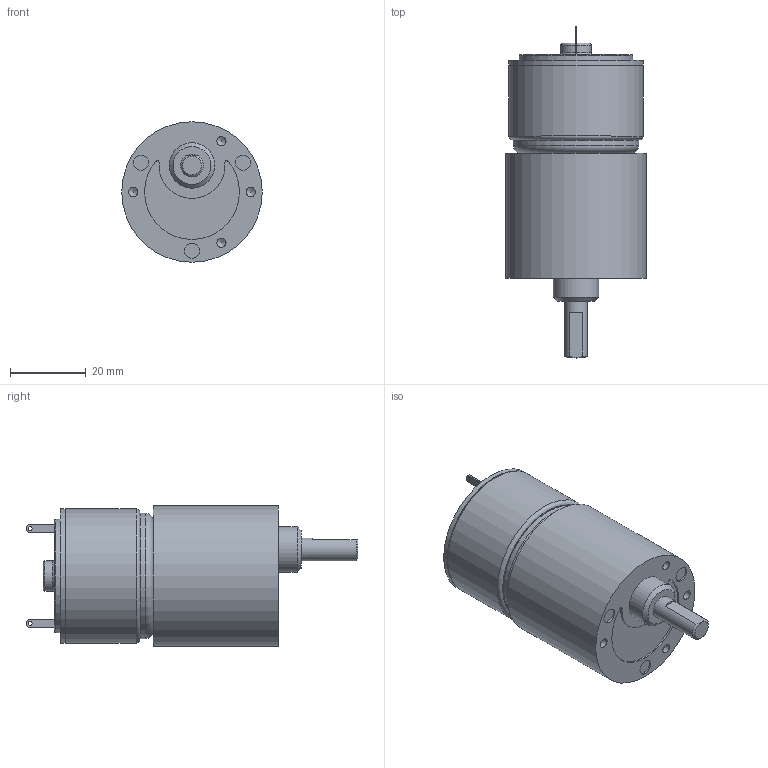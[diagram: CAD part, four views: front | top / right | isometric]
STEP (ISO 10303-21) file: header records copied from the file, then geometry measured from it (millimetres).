
FILE_DESCRIPTION((''),'2;1');
FILE_NAME('C:\Documents and Settings\SSEGAWA\デスクトップ\TP-3526G-KM-6.STP','2013-07-09T17:29:21',('SSEGAWA'),(''),'Autodesk Inventor 2010','Autodesk Inventor 2010','');
FILE_SCHEMA(('CONFIG_CONTROL_DESIGN'));
Length unit declared in the file: millimetre
Products named in the file (3): tp_3526g_km_6; km_6; tp_3526g
Assembly tree (2 placements, depth 2):
  tp_3526g_km_6
    km_6
    tp_3526g
Bounding box: 37 x 87.5 x 37 mm (x, y, z)
Volume: 61278.6 mm3; surface area: 11658.7 mm2
Topology: 2 solids, 2 shells, 77 faces, 158 edges, 103 vertices
Faces by surface type: plane 30, cylinder 23, bspline 17, torus 4, cone 3
Full cylindrical faces by diameter (mm): 2 x1, 2.4 x1, 4 x3, 5 x2, 6 x1, 8 x1, 10 x1, 12 x1, 30 x1, 33 x1, 35 x1, 35.4 x2, 37 x1
Entity records: 2095 total; most frequent: CARTESIAN_POINT 645, DIRECTION 303, ORIENTED_EDGE 204, EDGE_LOOP 139, AXIS2_PLACEMENT_3D 138, EDGE_CURVE 102, VERTEX_POINT 87, FACE_OUTER_BOUND 77
